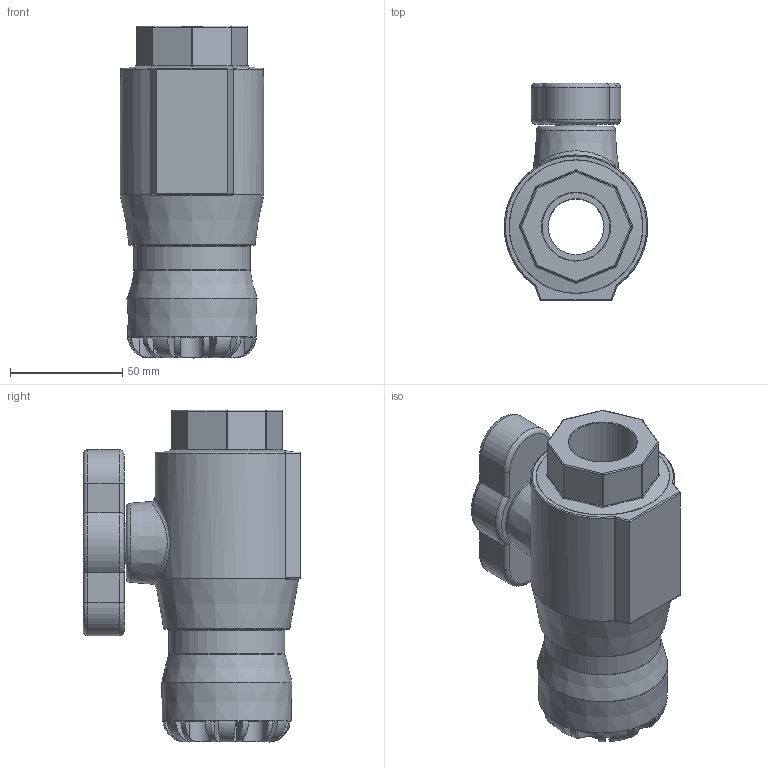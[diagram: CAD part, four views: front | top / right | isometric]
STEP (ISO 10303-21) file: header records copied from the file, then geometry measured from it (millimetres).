
FILE_DESCRIPTION(/* description */ ('PA Ball Valve Series 1 32mm x Female 1'''''),/* implementation_level */ '2;1');
FILE_NAME(/* name */ 'C:\Dropbox\99-16-3568-Processing\S1\0371003\03710030S00032010_03710030SF0032010.stp',/* time_stamp */ '2022-04-18T17:38:31+03:00',/* author */ ('Lenora'),/* organization */ (''),/* preprocessor_version */ 'ST-DEVELOPER v17.2',/* originating_system */ 'Autodesk Inventor 2019',/* authorisation */ '');
FILE_SCHEMA (('AUTOMOTIVE_DESIGN { 1 0 10303 214 3 1 1 }'));
Length unit declared in the file: millimetre
Products named in the file (1): 03710030S00032010_03710030SF0032010
Bounding box: 63.97 x 97 x 148 mm (x, y, z)
Volume: 372770.5 mm3; surface area: 56451.1 mm2
Topology: 1 solids, 1 shells, 214 faces, 544 edges, 335 vertices
Faces by surface type: plane 80, cylinder 73, bspline 26, torus 21, sphere 8, cone 6
Full cylindrical faces by diameter (mm): 18.5 x1, 25 x1, 30.291 x1, 32 x1, 34 x1, 51.84 x1
Entity records: 7645 total; most frequent: CARTESIAN_POINT 2624, ORIENTED_EDGE 1060, DIRECTION 1048, EDGE_CURVE 530, AXIS2_PLACEMENT_3D 439, VERTEX_POINT 325, CIRCLE 246, EDGE_LOOP 223
